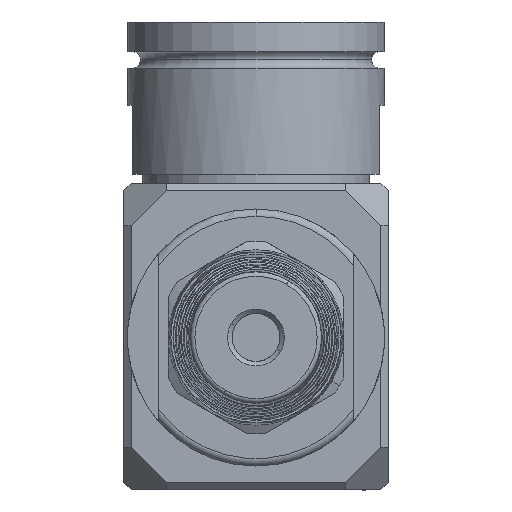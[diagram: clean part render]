
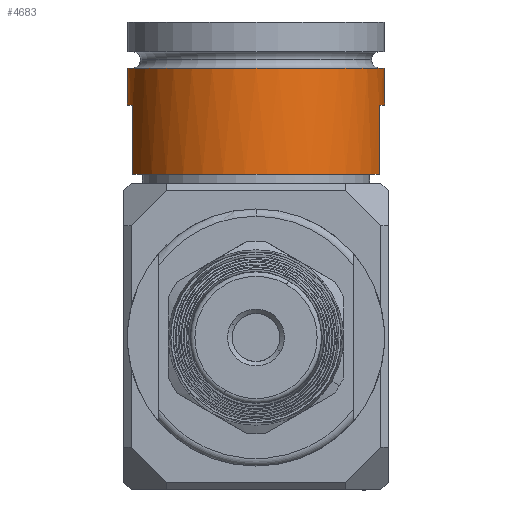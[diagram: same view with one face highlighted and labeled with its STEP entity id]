
A CAD part, front view. The second image highlights one B-rep face of the part: STEP entity #4683.
In plain terms, the highlighted cylindrical face has radius 17.691 mm (diameter 35.382 mm), a partial arc.
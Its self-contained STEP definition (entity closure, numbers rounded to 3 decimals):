
#274 = EDGE_CURVE ( 'NONE', #13415, #13466, #501, .T. ) ;
#501 = CIRCLE ( 'NONE', #5907, 17.691 ) ;
#535 = CARTESIAN_POINT ( 'NONE',  ( -16.993, -4.922, -2.972 ) ) ;
#697 = FACE_OUTER_BOUND ( 'NONE', #12966, .T. ) ;
#1075 = DIRECTION ( 'NONE',  ( -1., 0., 0. ) ) ;
#1231 = CARTESIAN_POINT ( 'NONE',  ( 16.993, -4.922, -2.972 ) ) ;
#1297 = CARTESIAN_POINT ( 'NONE',  ( 0., 0., -2.972 ) ) ;
#1438 = VECTOR ( 'NONE', #17005, 1000. ) ;
#1588 = DIRECTION ( 'NONE',  ( 0., 0., -1. ) ) ;
#1915 = CARTESIAN_POINT ( 'NONE',  ( 0., 0., 8.458 ) ) ;
#1923 = DIRECTION ( 'NONE',  ( 0., 0., -1. ) ) ;
#1943 = CARTESIAN_POINT ( 'NONE',  ( -16.993, -4.922, -12.497 ) ) ;
#1999 = EDGE_CURVE ( 'NONE', #13415, #5093, #12198, .T. ) ;
#2135 = AXIS2_PLACEMENT_3D ( 'NONE', #1915, #10772, #12388 ) ;
#3145 = EDGE_CURVE ( 'NONE', #3236, #15979, #6330, .T. ) ;
#3236 = VERTEX_POINT ( 'NONE', #15312 ) ;
#3525 = DIRECTION ( 'NONE',  ( 0., 0., -1. ) ) ;
#4020 = ORIENTED_EDGE ( 'NONE', *, *, #3145, .F. ) ;
#4026 = EDGE_CURVE ( 'NONE', #13466, #5402, #10270, .T. ) ;
#4484 = LINE ( 'NONE', #10232, #1438 ) ;
#4683 = ADVANCED_FACE ( 'NONE', ( #697 ), #13524, .T. ) ;
#4771 = CARTESIAN_POINT ( 'NONE',  ( 0., 0., 2.108 ) ) ;
#4802 = CARTESIAN_POINT ( 'NONE',  ( -17.691, 0., 2.108 ) ) ;
#4942 = DIRECTION ( 'NONE',  ( 0., 0., -1. ) ) ;
#5093 = VERTEX_POINT ( 'NONE', #10034 ) ;
#5402 = VERTEX_POINT ( 'NONE', #11861 ) ;
#5525 = CARTESIAN_POINT ( 'NONE',  ( -16.993, -4.922, -2.972 ) ) ;
#5608 = ORIENTED_EDGE ( 'NONE', *, *, #6662, .T. ) ;
#5907 = AXIS2_PLACEMENT_3D ( 'NONE', #4771, #3525, #7966 ) ;
#5983 = VERTEX_POINT ( 'NONE', #1231 ) ;
#6035 = DIRECTION ( 'NONE',  ( 0., 0., -1. ) ) ;
#6330 = CIRCLE ( 'NONE', #6635, 17.691 ) ;
#6635 = AXIS2_PLACEMENT_3D ( 'NONE', #16153, #1923, #17373 ) ;
#6662 = EDGE_CURVE ( 'NONE', #9818, #15979, #14660, .T. ) ;
#6726 = CARTESIAN_POINT ( 'NONE',  ( 17.691, 0., 8.458 ) ) ;
#6745 = CARTESIAN_POINT ( 'NONE',  ( 0., 0., -2.972 ) ) ;
#6976 = ORIENTED_EDGE ( 'NONE', *, *, #1999, .F. ) ;
#7477 = ORIENTED_EDGE ( 'NONE', *, *, #14295, .F. ) ;
#7966 = DIRECTION ( 'NONE',  ( 1., 0., 0. ) ) ;
#8407 = ORIENTED_EDGE ( 'NONE', *, *, #274, .T. ) ;
#8900 = ORIENTED_EDGE ( 'NONE', *, *, #10110, .F. ) ;
#9544 = AXIS2_PLACEMENT_3D ( 'NONE', #1297, #1588, #11485 ) ;
#9818 = VERTEX_POINT ( 'NONE', #5525 ) ;
#10034 = CARTESIAN_POINT ( 'NONE',  ( 17.691, 0., -2.972 ) ) ;
#10110 = EDGE_CURVE ( 'NONE', #5983, #3236, #4484, .T. ) ;
#10232 = CARTESIAN_POINT ( 'NONE',  ( 16.993, -4.922, -2.972 ) ) ;
#10270 = LINE ( 'NONE', #13109, #10552 ) ;
#10552 = VECTOR ( 'NONE', #6035, 1000. ) ;
#10615 = DIRECTION ( 'NONE',  ( 0., 0., -1. ) ) ;
#10772 = DIRECTION ( 'NONE',  ( 0., 0., -1. ) ) ;
#11481 = CARTESIAN_POINT ( 'NONE',  ( 17.691, 0., 2.108 ) ) ;
#11485 = DIRECTION ( 'NONE',  ( 1., 0., 0. ) ) ;
#11861 = CARTESIAN_POINT ( 'NONE',  ( -17.691, 0., -2.972 ) ) ;
#11928 = AXIS2_PLACEMENT_3D ( 'NONE', #6745, #12497, #1075 ) ;
#12198 = LINE ( 'NONE', #6726, #13825 ) ;
#12388 = DIRECTION ( 'NONE',  ( 1., 0., 0. ) ) ;
#12497 = DIRECTION ( 'NONE',  ( 0., 0., -1. ) ) ;
#12966 = EDGE_LOOP ( 'NONE', ( #8407, #15501, #14941, #5608, #4020, #8900, #7477, #6976 ) ) ;
#13109 = CARTESIAN_POINT ( 'NONE',  ( -17.691, 0., 8.458 ) ) ;
#13415 = VERTEX_POINT ( 'NONE', #11481 ) ;
#13466 = VERTEX_POINT ( 'NONE', #4802 ) ;
#13524 = CYLINDRICAL_SURFACE ( 'NONE', #2135, 17.691 ) ;
#13825 = VECTOR ( 'NONE', #4942, 1000. ) ;
#14295 = EDGE_CURVE ( 'NONE', #5093, #5983, #16159, .T. ) ;
#14660 = LINE ( 'NONE', #535, #17380 ) ;
#14941 = ORIENTED_EDGE ( 'NONE', *, *, #18626, .F. ) ;
#15312 = CARTESIAN_POINT ( 'NONE',  ( 16.993, -4.922, -12.497 ) ) ;
#15501 = ORIENTED_EDGE ( 'NONE', *, *, #4026, .T. ) ;
#15979 = VERTEX_POINT ( 'NONE', #1943 ) ;
#16085 = CIRCLE ( 'NONE', #11928, 17.691 ) ;
#16153 = CARTESIAN_POINT ( 'NONE',  ( 0., 0., -12.497 ) ) ;
#16159 = CIRCLE ( 'NONE', #9544, 17.691 ) ;
#17005 = DIRECTION ( 'NONE',  ( 0., 0., -1. ) ) ;
#17373 = DIRECTION ( 'NONE',  ( 1., 0., 0. ) ) ;
#17380 = VECTOR ( 'NONE', #10615, 1000. ) ;
#18626 = EDGE_CURVE ( 'NONE', #9818, #5402, #16085, .T. ) ;
